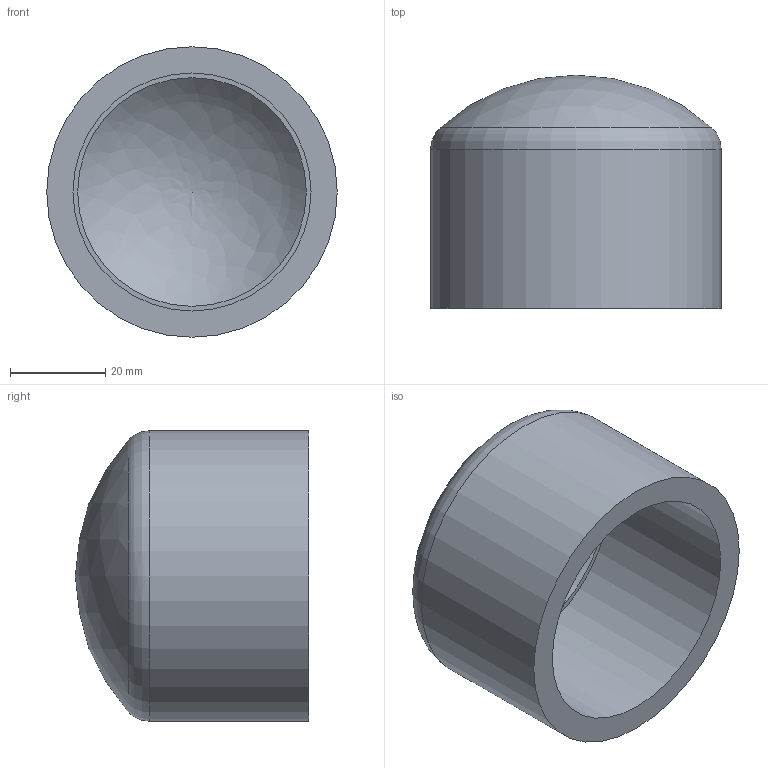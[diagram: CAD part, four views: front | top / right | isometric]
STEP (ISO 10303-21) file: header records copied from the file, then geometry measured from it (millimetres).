
FILE_DESCRIPTION(/* description */ ('PVC calotta incollaggio metrico'),/* implementation_level */ '2;1');
FILE_NAME(/* name */ 'C:\Users\POLYPIPE\Desktop\DATASET INVENTOR\LIBRERIA EFFAST\RACCORDI 3DxWEB\RDR\3D_RDRCAD\3D_RDRCAD0500.stp',/* time_stamp */ '2018-01-19T14:06:29+01:00',/* author */ ('POLYPIPE'),/* organization */ ('Polypipe Italia'),/* preprocessor_version */ 'ST-DEVELOPER v16.1',/* originating_system */ 'Autodesk Inventor 2016',/* authorisation */ '');
FILE_SCHEMA (('CONFIG_CONTROL_DESIGN'));
Length unit declared in the file: millimetre
Products named in the file (1): 3D_RDRCAD
Bounding box: 61 x 49 x 61 mm (x, y, z)
Volume: 50738.7 mm3; surface area: 18722.7 mm2
Topology: 1 solids, 1 shells, 7 faces, 12 edges, 8 vertices
Faces by surface type: cylinder 2, plane 2, torus 1, sphere 1, bspline 1
Full cylindrical faces by diameter (mm): 50 x1, 61 x1
Entity records: 198 total; most frequent: CARTESIAN_POINT 52, DIRECTION 28, ORIENTED_EDGE 16, AXIS2_PLACEMENT_3D 14, EDGE_LOOP 12, VERTEX_POINT 8, EDGE_CURVE 8, FACE_OUTER_BOUND 7
